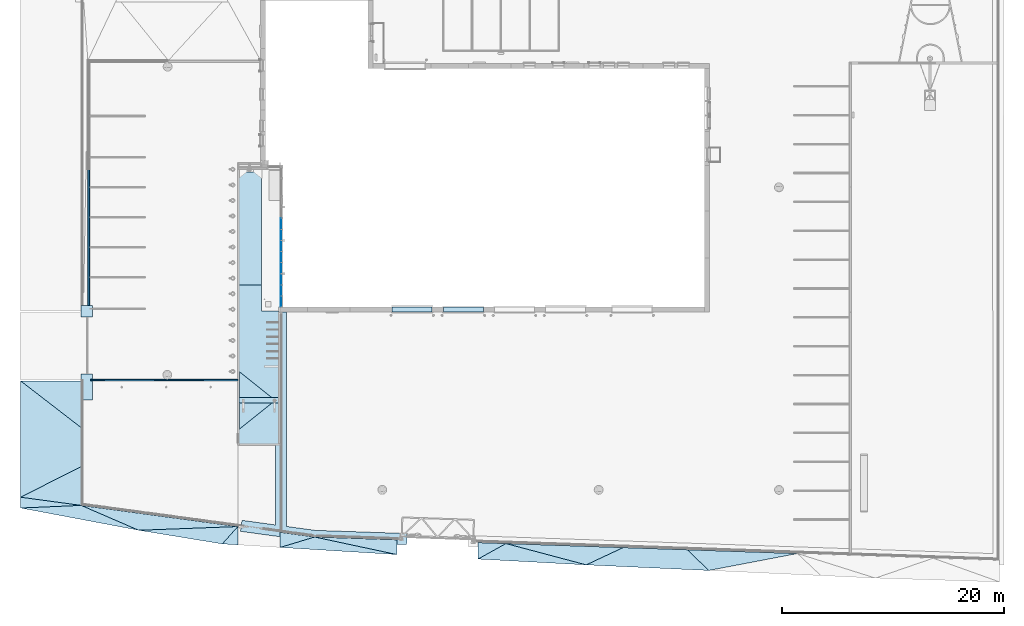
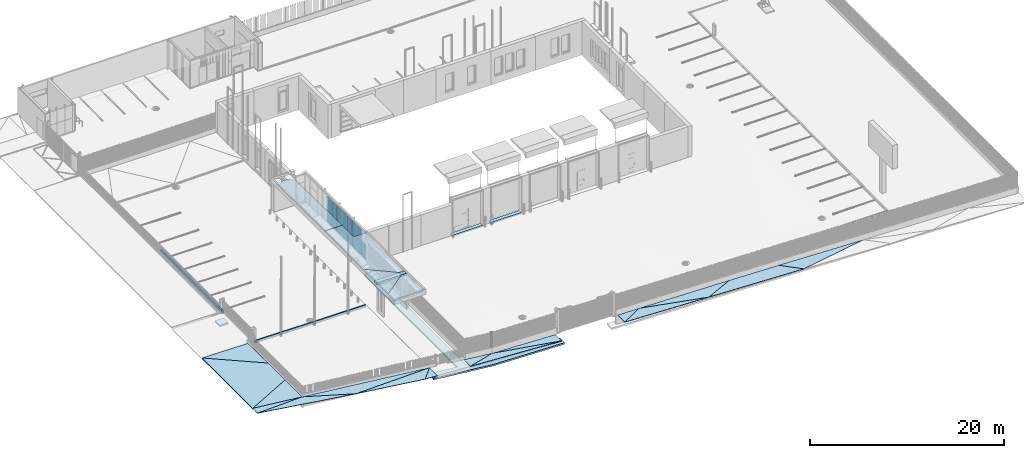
# One storey, part 8 of 77: 29 slabs, 8 plates, 9 elements without a shape of their own.
"""IFC2X3 building model written with IfcOpenShell, lengths in millimetres."""

import ifcopenshell
import ifcopenshell.guid

model = None  # the IFC model being written
_history = None  # IfcOwnerHistory: only IFC2X3 demands one
_inside = {}  # id of a spatial element -> (the spatial element, [elements in it])
_under = {}  # id of a project, library or spatial element -> (it, [spatial elements below it])
_declared = {}  # id of a project -> (the project, [libraries it declares])
_typed = {}  # id of a type object -> (the type object, [elements of that type])
_made_of = {}  # id of a material, layer set ... -> (it, [elements and type objects made of it])


def new_model(schema):
    """Start an empty IFC model of exactly this schema.

    Asked for "IFC4X3", IfcOpenShell would pick the latest addendum, in which some entities
    have other attributes; the version numbers below select the first issue.
    IFC2X3 requires an IfcOwnerHistory on every rooted entity: one is made here for all.
    """
    global model, _history
    if schema == "IFC4X3":
        model = ifcopenshell.file(schema_version=(4, 3, 0, 0))
    else:
        model = ifcopenshell.file(schema=schema)
    _inside.clear()
    _under.clear()
    _declared.clear()
    _typed.clear()
    _made_of.clear()
    _history = None
    if model.schema == "IFC2X3":
        org = make("IfcOrganization", Name="unknown")
        user = make(
            "IfcPersonAndOrganization",
            ThePerson=make("IfcPerson", FamilyName="unknown"),
            TheOrganization=org,
        )
        app = make(
            "IfcApplication",
            ApplicationDeveloper=org,
            Version="unknown",
            ApplicationFullName="unknown",
            ApplicationIdentifier="unknown",
        )
        _history = make(
            "IfcOwnerHistory",
            OwningUser=user,
            OwningApplication=app,
            ChangeAction="ADDED",
            CreationDate=0,
        )
    return model


def make(cls, **values):
    """One entity of the class cls with the attributes given. An attribute that is None is left unset."""
    return model.create_entity(
        cls, **{name: value for name, value in values.items() if value is not None}
    )


def entity(cls, *values):
    """Any entity or typed value of the class cls, its attributes in the order of the schema. None: left unset."""
    e = model.create_entity(cls)
    for i, value in enumerate(values):
        if value is not None:
            e[i] = value
    return e


def rooted(cls, **values):
    """An entity with a GlobalId (a new one), such as an element, a storey or a relation."""
    return make(cls, GlobalId=ifcopenshell.guid.new(), OwnerHistory=_history, **values)


def si_unit(unit_type, name, prefix=None):
    """IfcSIUnit, for example si_unit("LENGTHUNIT", "METRE", prefix="MILLI")."""
    return make("IfcSIUnit", UnitType=unit_type, Prefix=prefix, Name=name)


def converted_unit(unit_type, name, factor, base, dimensions=None, offset=None):
    """IfcConversionBasedUnit, such as the inch: factor (a typed value) times the base unit."""
    return make(
        "IfcConversionBasedUnit"
        if offset is None
        else "IfcConversionBasedUnitWithOffset",
        ConversionOffset=offset,
        Dimensions=None
        if dimensions is None
        else entity("IfcDimensionalExponents", *dimensions),
        UnitType=unit_type,
        Name=name,
        ConversionFactor=make(
            "IfcMeasureWithUnit", ValueComponent=factor, UnitComponent=base
        ),
    )


def derived_unit(unit_type, elements):
    """IfcDerivedUnit: a product of units, each with its exponent."""
    return make(
        "IfcDerivedUnit",
        Elements=[
            make("IfcDerivedUnitElement", Unit=unit, Exponent=power)
            for unit, power in elements
        ],
        UnitType=unit_type,
    )


def assignment(units):
    """IfcUnitAssignment: the units of a project."""
    return None if units is None else make("IfcUnitAssignment", Units=units)


def point(xyz):
    """IfcCartesianPoint."""
    return None if xyz is None else make("IfcCartesianPoint", Coordinates=xyz)


def direction(xyz):
    """IfcDirection."""
    return None if xyz is None else make("IfcDirection", DirectionRatios=xyz)


def frame(location, z_axis=None, x_axis=None):
    """IfcAxis2Placement3D, a coordinate frame: its origin and axes. An axis left out is left unset."""
    return make(
        "IfcAxis2Placement3D",
        Location=point(location),
        Axis=direction(z_axis),
        RefDirection=direction(x_axis),
    )


def frame_2d(location, x_axis=None):
    """IfcAxis2Placement2D, a coordinate frame in the plane: its origin and x axis."""
    return make(
        "IfcAxis2Placement2D", Location=point(location), RefDirection=direction(x_axis)
    )


def origin():
    """The frame at (0, 0, 0) with its axes left unset."""
    return frame((0.0, 0.0, 0.0))


def place(relative_to, where):
    """IfcLocalPlacement: puts the frame where relative to a parent placement (None: the world)."""
    return make(
        "IfcLocalPlacement", PlacementRelTo=relative_to, RelativePlacement=where
    )


def context(
    kind, dimensions, precision=None, world=None, true_north=None, identifier=None
):
    """IfcGeometricRepresentationContext, for example the 3D "Model" context."""
    return make(
        "IfcGeometricRepresentationContext",
        ContextIdentifier=identifier,
        ContextType=kind,
        CoordinateSpaceDimension=dimensions,
        Precision=precision,
        WorldCoordinateSystem=world,
        TrueNorth=true_north,
    )


def subcontext(parent, identifier, kind, view, scale=None):
    """IfcGeometricRepresentationSubContext, for example "Body" below "Model"."""
    return make(
        "IfcGeometricRepresentationSubContext",
        ContextIdentifier=identifier,
        ContextType=kind,
        ParentContext=parent,
        TargetScale=scale,
        TargetView=view,
    )


def project(units=None, contexts=None):
    """IfcProject with its units and contexts."""
    return rooted(
        "IfcProject",
        Name="project",
        RepresentationContexts=contexts,
        UnitsInContext=assignment(units),
    )


def spatial(cls, under=None, at=None, **own):
    """A site, building, storey or space (cls), placed at a placement, below another one or the project."""
    s = rooted(cls, ObjectPlacement=at, **own)
    if under is not None:
        _under.setdefault(under.id(), (under, []))[1].append(s)
    return s


def polyline(points):
    """IfcPolyline through the points."""
    return make("IfcPolyline", Points=[point(p) for p in points])


def profile(cls, at=None, kind="AREA", **sizes):
    """A parametric profile (cls). Its sizes go by their IFC names, for example OverallWidth=200.0."""
    return make(cls, ProfileType=kind, Position=at, **sizes)


def rectangle(**sizes):
    """IfcRectangleProfileDef."""
    return profile("IfcRectangleProfileDef", **sizes)


def outline(outer, holes=None, kind="AREA"):
    """IfcArbitraryClosedProfileDef: a profile drawn as a closed curve; with holes, ...WithVoids."""
    if holes is None:
        return make("IfcArbitraryClosedProfileDef", ProfileType=kind, OuterCurve=outer)
    return make(
        "IfcArbitraryProfileDefWithVoids",
        ProfileType=kind,
        OuterCurve=outer,
        InnerCurves=holes,
    )


def extrude(swept, where, along, depth):
    """IfcExtrudedAreaSolid: the profile swept, set in the frame where, extruded along a direction by depth."""
    return make(
        "IfcExtrudedAreaSolid",
        SweptArea=swept,
        Position=where,
        ExtrudedDirection=direction(along),
        Depth=depth,
    )


def clip(a, b, op="DIFFERENCE"):
    """IfcBooleanClippingResult: the solid a cut by the half space b."""
    return make(
        "IfcBooleanClippingResult", Operator=op, FirstOperand=a, SecondOperand=b
    )


def halfspace(plane, agree):
    """IfcHalfSpaceSolid: all space on one side of the plane z = 0 of the frame plane."""
    return make(
        "IfcHalfSpaceSolid",
        BaseSurface=make("IfcPlane", Position=plane),
        AgreementFlag=agree,
    )


def shape(context_of_items, identifier, shape_type, items):
    """IfcShapeRepresentation: the items that make up one representation, for example the "Body"."""
    return make(
        "IfcShapeRepresentation",
        ContextOfItems=context_of_items,
        RepresentationIdentifier=identifier,
        RepresentationType=shape_type,
        Items=items,
    )


def source(mapping_origin, context_of_items, identifier, shape_type, items):
    """IfcRepresentationMap: a shape defined once, which mapped items show again and again."""
    return make(
        "IfcRepresentationMap",
        MappingOrigin=mapping_origin,
        MappedRepresentation=shape(context_of_items, identifier, shape_type, items),
    )


def transform(
    local_origin,
    x_axis=None,
    y_axis=None,
    z_axis=None,
    scale=None,
    scale2=None,
    scale3=None,
    uniform=True,
):
    """IfcCartesianTransformationOperator3D, or its non-uniform kind. x_axis, y_axis, z_axis: its Axis1, 2, 3."""
    if uniform:
        return make(
            "IfcCartesianTransformationOperator3D",
            Axis1=direction(x_axis),
            Axis2=direction(y_axis),
            LocalOrigin=point(local_origin),
            Scale=scale,
            Axis3=direction(z_axis),
        )
    return make(
        "IfcCartesianTransformationOperator3DnonUniform",
        Axis1=direction(x_axis),
        Axis2=direction(y_axis),
        LocalOrigin=point(local_origin),
        Scale=scale,
        Axis3=direction(z_axis),
        Scale2=scale2,
        Scale3=scale3,
    )


def mapped(mapping_source, mapping_target):
    """IfcMappedItem: shows the shape of a source again, moved by a transform."""
    return make(
        "IfcMappedItem", MappingSource=mapping_source, MappingTarget=mapping_target
    )


def material(Name=None, Category=None):
    """IfcMaterial."""
    return make("IfcMaterial", Name=Name, Category=Category)


def layer(
    of_material, thickness, ventilated=None, Name=None, Category=None, Priority=None
):
    """IfcMaterialLayer: one layer of a wall or slab, of a material (None: an air gap)."""
    return make(
        "IfcMaterialLayer",
        Material=of_material,
        LayerThickness=thickness,
        IsVentilated=ventilated,
        Name=Name,
        Category=Category,
        Priority=Priority,
    )


def layer_set(layers, Name=None):
    """IfcMaterialLayerSet."""
    return make("IfcMaterialLayerSet", MaterialLayers=layers, LayerSetName=Name)


def layer_usage(for_layer_set, set_direction, sense, offset, extent=None):
    """IfcMaterialLayerSetUsage: how a layer set lies in its element."""
    return make(
        "IfcMaterialLayerSetUsage",
        ForLayerSet=for_layer_set,
        LayerSetDirection=set_direction,
        DirectionSense=sense,
        OffsetFromReferenceLine=offset,
        ReferenceExtent=extent,
    )


def made_of(thing, what):
    """Note that an element or type object is made of a material, layer set ...; save() writes the relation."""
    if what is not None:
        _made_of.setdefault(what.id(), (what, []))[1].append(thing)
    return thing


def type_object(cls, material=None, **own):
    """A type object (cls), such as IfcWallType, which elements share."""
    return made_of(rooted(cls, **own), material)


def type_shapes(of_type, sources):
    """Give a type object the sources (RepresentationMaps) that its elements show as mapped items."""
    of_type.RepresentationMaps = sources


def element(
    cls,
    number,
    at=None,
    inside=None,
    cuts=None,
    type_object=None,
    material=None,
    context=None,
    identifier="Body",
    shape_type=None,
    held_by="IfcProductDefinitionShape",
    body=None,
    shapes=None,
    **own,
):
    """One element of the class cls, such as IfcWall. Its Tag is "e" and its number.

    at: its placement. inside: the storey or other place that contains it. cuts: it is an
    opening in that element (IfcRelVoidsElement). A single representation is given by context,
    identifier, shape_type and body (its items); several are given by shapes. held_by: the class
    of the entity that holds the representations. save() writes the other relations.
    """
    e = rooted(cls, Tag="e%d" % number, ObjectPlacement=at, **own)
    if body is not None:
        shapes = [shape(context, identifier, shape_type, body)]
    if shapes is not None:
        e.Representation = make(held_by, Representations=shapes)
    if inside is not None:
        _inside.setdefault(inside.id(), (inside, []))[1].append(e)
    if cuts is not None:
        rooted(
            "IfcRelVoidsElement", RelatingBuildingElement=cuts, RelatedOpeningElement=e
        )
    if type_object is not None:
        _typed.setdefault(type_object.id(), (type_object, []))[1].append(e)
    return made_of(e, material)


def aggregate(whole, parts):
    """IfcRelAggregates: a whole, such as a stair, and the parts it consists of."""
    return rooted("IfcRelAggregates", RelatingObject=whole, RelatedObjects=parts)


def save(model, path):
    """Write the relations noted so far, then the file.

    IfcRelAggregates (storeys below a building ...), IfcRelContainedInSpatialStructure (elements
    in a storey), IfcRelDefinesByType, IfcRelAssociatesMaterial and IfcRelDeclares: one each for
    every whole, place, type object, material and project.
    """
    for whole, parts in _under.values():
        aggregate(whole, parts)
    for where, things in _inside.values():
        rooted(
            "IfcRelContainedInSpatialStructure",
            RelatedElements=things,
            RelatingStructure=where,
        )
    for kind, things in _typed.values():
        rooted("IfcRelDefinesByType", RelatedObjects=things, RelatingType=kind)
    for what, things in _made_of.values():
        rooted("IfcRelAssociatesMaterial", RelatedObjects=things, RelatingMaterial=what)
    for by, libraries in _declared.values():
        rooted("IfcRelDeclares", RelatingContext=by, RelatedDefinitions=libraries)
    model.write(path)


model = new_model("IFC2X3")

# Units and contexts
model_context = context("Model", 3, precision=0.01, world=origin(), true_north=direction((6.12303176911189e-17, 1.0)))
body_context = subcontext(model_context, "Body", "Model", "MODEL_VIEW")
ifc_project = project(units=[si_unit("LENGTHUNIT", "METRE", prefix="MILLI"), si_unit("AREAUNIT", "SQUARE_METRE"), si_unit("VOLUMEUNIT", "CUBIC_METRE"), converted_unit("PLANEANGLEUNIT", "DEGREE", entity("IfcRatioMeasure", 0.0174532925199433), si_unit("PLANEANGLEUNIT", "RADIAN"), dimensions=[0, 0, 0, 0, 0, 0, 0]), si_unit("MASSUNIT", "GRAM", prefix="KILO"), derived_unit("MASSDENSITYUNIT", [(si_unit("MASSUNIT", "GRAM", prefix="KILO"), 1), (si_unit("LENGTHUNIT", "METRE"), -3)]), si_unit("TIMEUNIT", "SECOND"), si_unit("FREQUENCYUNIT", "HERTZ"), si_unit("THERMODYNAMICTEMPERATUREUNIT", "DEGREE_CELSIUS"), derived_unit("THERMALTRANSMITTANCEUNIT", [(si_unit("MASSUNIT", "GRAM", prefix="KILO"), 1), (si_unit("THERMODYNAMICTEMPERATUREUNIT", "KELVIN"), -1), (si_unit("TIMEUNIT", "SECOND"), -3)]), derived_unit("VOLUMETRICFLOWRATEUNIT", [(si_unit("LENGTHUNIT", "METRE"), 3), (si_unit("TIMEUNIT", "SECOND"), -1)]), si_unit("ELECTRICCURRENTUNIT", "AMPERE"), si_unit("ELECTRICVOLTAGEUNIT", "VOLT"), si_unit("POWERUNIT", "WATT"), si_unit("FORCEUNIT", "NEWTON", prefix="KILO"), si_unit("ILLUMINANCEUNIT", "LUX"), si_unit("LUMINOUSFLUXUNIT", "LUMEN"), si_unit("LUMINOUSINTENSITYUNIT", "CANDELA"), derived_unit("USERDEFINED", [(si_unit("MASSUNIT", "GRAM", prefix="KILO"), -1), (si_unit("LENGTHUNIT", "METRE"), -2), (si_unit("TIMEUNIT", "SECOND"), 3), (si_unit("LUMINOUSFLUXUNIT", "LUMEN"), 1)]), derived_unit("LINEARVELOCITYUNIT", [(si_unit("LENGTHUNIT", "METRE"), 1), (si_unit("TIMEUNIT", "SECOND"), -1)]), si_unit("PRESSUREUNIT", "PASCAL"), derived_unit("USERDEFINED", [(si_unit("LENGTHUNIT", "METRE"), -2), (si_unit("MASSUNIT", "GRAM", prefix="KILO"), 1), (si_unit("TIMEUNIT", "SECOND"), -2)])], contexts=[model_context])

# Site, building, storey
site_placement = place(None, origin())
site = spatial("IfcSite", under=ifc_project, at=site_placement, Name="Default", CompositionType="ELEMENT")
building_placement = place(site_placement, origin())
building = spatial("IfcBuilding", under=site, at=building_placement, CompositionType="ELEMENT")
storey_placement = place(building_placement, origin())
storey = spatial("IfcBuildingStorey", under=building, at=storey_placement, Name="1. KORRUS", CompositionType="ELEMENT", Elevation=0.0)

# Curtain wall, plates
curtain_wall_type = type_object("IfcCurtainWallType", Name="Curtain Wall:KF01", PredefinedType="NOTDEFINED")
curtain_wall_placement = place(storey_placement, origin())
curtain_wall = element("IfcCurtainWall", 1, at=curtain_wall_placement, inside=storey, type_object=curtain_wall_type, Name="Curtain Wall:KF01", ObjectType="Curtain Wall:KF01")
ifc_material_1 = material(Name="<Unnamed>")
ifc_layer_1 = layer(ifc_material_1, 52.8)
ifc_layer_set_1 = layer_set([ifc_layer_1], Name="Curtain Wall:KF01")
ifc_layer_usage_1 = layer_usage(ifc_layer_set_1, "AXIS3", "POSITIVE", 0.190288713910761)
plate_type_1 = type_object("IfcPlateType", Name="kf-klaaspakett", PredefinedType="CURTAIN_PANEL", material=ifc_layer_set_1)
shared_shape_1 = source(origin(), body_context, "Body", "SweptSolid", [
    extrude(rectangle(XDim=52.8, YDim=925.000000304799, at=frame_2d((5.32907051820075e-15, 0.0), x_axis=(1.0, 0.0))), frame((0.0, 58.0, 0.0), z_axis=(0.0, 0.0, 1.0), x_axis=(0.0, 1.0, 0.0)), (0.0, 0.0, 1.0), 1950.0),
])
type_shapes(plate_type_1, [shared_shape_1])
plate_1_placement = place(curtain_wall_placement, frame((1460.004537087, 512.500000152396, 50.0), z_axis=(0.0, 0.0, 1.0), x_axis=(0.0, 1.0, 0.0)))
plate_1 = element("IfcPlate", 2, at=plate_1_placement, type_object=plate_type_1, material=ifc_layer_usage_1, Name="System Panel:kf-klaaspakett", ObjectType="kf-klaaspakett", context=body_context, shape_type="MappedRepresentation", body=[
    mapped(shared_shape_1, transform((0.0, 0.0, 0.0), scale=1.0)),
])
ifc_layer_usage_2 = layer_usage(ifc_layer_set_1, "AXIS3", "POSITIVE", 0.190288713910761)
plate_type_2 = type_object("IfcPlateType", Name="kf-klaaspakett", PredefinedType="CURTAIN_PANEL", material=ifc_layer_set_1)
shared_shape_2 = source(origin(), body_context, "Body", "SweptSolid", [
    extrude(rectangle(XDim=3300.0, YDim=950.0, at=frame_2d((-256.25, 0.0), x_axis=(1.0, 0.0))), frame((0.0, 31.6000000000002, 1906.25), z_axis=(0.0, 1.0, 0.0), x_axis=(0.0, 0.0, 1.0)), (0.0, 0.0, 1.0), 52.8),
])
type_shapes(plate_type_2, [shared_shape_2])
plate_2_placement = place(curtain_wall_placement, frame((1460.004537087, 1500.0, 50.0), z_axis=(0.0, 0.0, 1.0), x_axis=(0.0, 1.0, 0.0)))
plate_2 = element("IfcPlate", 3, at=plate_2_placement, type_object=plate_type_2, material=ifc_layer_usage_2, Name="System Panel:kf-klaaspakett", ObjectType="kf-klaaspakett", context=body_context, shape_type="MappedRepresentation", body=[
    mapped(shared_shape_2, transform((0.0, 0.0, 0.0), scale=1.0)),
])
ifc_layer_usage_3 = layer_usage(ifc_layer_set_1, "AXIS3", "POSITIVE", 0.190288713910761)
plate_3_placement = place(curtain_wall_placement, frame((1460.004537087, 2500.0, 50.0), z_axis=(0.0, 0.0, 1.0), x_axis=(0.0, 1.0, 0.0)))
plate_3 = element("IfcPlate", 4, at=plate_3_placement, type_object=plate_type_2, material=ifc_layer_usage_3, Name="System Panel:kf-klaaspakett", ObjectType="kf-klaaspakett", context=body_context, shape_type="MappedRepresentation", body=[
    mapped(shared_shape_2, transform((0.0, 0.0, 0.0), scale=1.0)),
])
ifc_layer_usage_4 = layer_usage(ifc_layer_set_1, "AXIS3", "POSITIVE", 0.190288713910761)
plate_4_placement = place(curtain_wall_placement, frame((1460.004537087, 3500.0, 50.0), z_axis=(0.0, 0.0, 1.0), x_axis=(0.0, 1.0, 0.0)))
plate_4 = element("IfcPlate", 5, at=plate_4_placement, type_object=plate_type_2, material=ifc_layer_usage_4, Name="System Panel:kf-klaaspakett", ObjectType="kf-klaaspakett", context=body_context, shape_type="MappedRepresentation", body=[
    mapped(shared_shape_2, transform((0.0, 0.0, 0.0), scale=1.0)),
])
ifc_layer_usage_5 = layer_usage(ifc_layer_set_1, "AXIS3", "POSITIVE", 0.190288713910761)
plate_5_placement = place(curtain_wall_placement, frame((1460.004537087, 4500.0, 50.0), z_axis=(0.0, 0.0, 1.0), x_axis=(0.0, 1.0, 0.0)))
plate_5 = element("IfcPlate", 6, at=plate_5_placement, type_object=plate_type_2, material=ifc_layer_usage_5, Name="System Panel:kf-klaaspakett", ObjectType="kf-klaaspakett", context=body_context, shape_type="MappedRepresentation", body=[
    mapped(shared_shape_2, transform((0.0, 0.0, 0.0), scale=1.0)),
])
ifc_layer_usage_6 = layer_usage(ifc_layer_set_1, "AXIS3", "POSITIVE", 0.190288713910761)
plate_6_placement = place(curtain_wall_placement, frame((1460.004537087, 5500.0, 50.0), z_axis=(0.0, 0.0, 1.0), x_axis=(0.0, 1.0, 0.0)))
plate_6 = element("IfcPlate", 7, at=plate_6_placement, type_object=plate_type_2, material=ifc_layer_usage_6, Name="System Panel:kf-klaaspakett", ObjectType="kf-klaaspakett", context=body_context, shape_type="MappedRepresentation", body=[
    mapped(shared_shape_2, transform((0.0, 0.0, 0.0), scale=1.0)),
])
ifc_layer_usage_7 = layer_usage(ifc_layer_set_1, "AXIS3", "POSITIVE", 0.190288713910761)
plate_7_placement = place(curtain_wall_placement, frame((1460.004537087, 6500.0, 50.0), z_axis=(0.0, 0.0, 1.0), x_axis=(0.0, 1.0, 0.0)))
plate_7 = element("IfcPlate", 8, at=plate_7_placement, type_object=plate_type_2, material=ifc_layer_usage_7, Name="System Panel:kf-klaaspakett", ObjectType="kf-klaaspakett", context=body_context, shape_type="MappedRepresentation", body=[
    mapped(shared_shape_2, transform((0.0, 0.0, 0.0), scale=1.0)),
])
ifc_layer_usage_8 = layer_usage(ifc_layer_set_1, "AXIS3", "POSITIVE", 0.190288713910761)
plate_8_placement = place(curtain_wall_placement, frame((1460.00453708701, 7500.0, 50.0), z_axis=(0.0, 0.0, 1.0), x_axis=(0.0, 1.0, 0.0)))
plate_8 = element("IfcPlate", 9, at=plate_8_placement, type_object=plate_type_2, material=ifc_layer_usage_8, Name="System Panel:kf-klaaspakett", ObjectType="kf-klaaspakett", context=body_context, shape_type="MappedRepresentation", body=[
    mapped(shared_shape_2, transform((0.0, 0.0, 0.0), scale=1.0)),
])
aggregate(curtain_wall, [plate_1, plate_2, plate_3, plate_4, plate_5, plate_6, plate_7, plate_8])

# Roof, slabs
roof_1_placement = place(storey_placement, frame((-2375.0, -12325.0, 3550.0)))
roof_1 = element("IfcRoof", 10, at=roof_1_placement, inside=storey, Name="Basic Roof:varikatus_pvc-betoon", ObjectType="Basic Roof:varikatus_pvc-betoon", ShapeType="NOTDEFINED")
ifc_material_2 = material(Name="pvc-katusekate")
ifc_layer_2 = layer(ifc_material_2, 5.0)
ifc_material_3 = material(Name="r/b")
ifc_layer_3 = layer(ifc_material_3, 220.0)
ifc_layer_set_2 = layer_set([ifc_layer_2, ifc_layer_3], Name="Basic Roof:varikatus_pvc-betoon")
slab_1_placement = place(roof_1_placement, origin())
slab_1 = element("IfcSlab", 11, at=slab_1_placement, material=ifc_layer_set_2, Name="Basic Roof:varikatus_pvc-betoon", ObjectType="Basic Roof:varikatus_pvc-betoon", PredefinedType="ROOF", context=body_context, shape_type="SweptSolid", body=[
    extrude(rectangle(XDim=3675.28787990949, YDim=3550.0, at=frame_2d((0.0, 1.02318153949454e-12), x_axis=(0.0, 1.0))), frame((1775.0, 1837.50000001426, 23.0), z_axis=(0.0, 0.0125160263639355, 0.99992167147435), x_axis=(1.0, 0.0, 0.0)), (0.0, -0.0125160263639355, 0.99992167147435), 225.0),
])
slab_2_placement = place(roof_1_placement, origin())
slab_2 = element("IfcSlab", 12, at=slab_2_placement, material=ifc_layer_set_2, Name="Basic Roof:varikatus_pvc-betoon", ObjectType="Basic Roof:varikatus_pvc-betoon", PredefinedType="ROOF", context=body_context, shape_type="SweptSolid", body=[
    extrude(outline(polyline([(1775.0, -5075.39725045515), (1775.0, 2725.21330197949), (250.0, 2725.21330197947), (250.0, 5075.39725045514), (-1775.0, 5075.39725045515), (-1775.0, -5075.39725045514), (1775.0, -5075.39725045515)])), frame((1775.0, 9250.0, 63.5000000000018), z_axis=(0.0, -0.012511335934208, 0.999921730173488), x_axis=(1.0, 0.0, 0.0)), (0.0, 0.012511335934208, 0.999921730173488), 225.0),
])
slab_3_placement = place(roof_1_placement, origin())
slab_3 = element("IfcSlab", 13, at=slab_3_placement, material=ifc_layer_set_2, Name="Basic Roof:varikatus_pvc-betoon", ObjectType="Basic Roof:varikatus_pvc-betoon", PredefinedType="ROOF", context=body_context, shape_type="SweptSolid", body=[
    extrude(rectangle(XDim=2025.0, YDim=10150.7945009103, at=frame_2d((2.8421709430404e-13, 0.0), x_axis=(1.0, 0.0))), frame((1012.5, 19400.0, 63.5000000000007), z_axis=(0.0, 0.012511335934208, 0.999921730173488), x_axis=(1.0, 0.0, 0.0)), (0.0, -0.012511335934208, 0.999921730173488), 225.0),
])
slab_4_placement = place(roof_1_placement, origin())
slab_4 = element("IfcSlab", 14, at=slab_4_placement, material=ifc_layer_set_2, Name="Basic Roof:varikatus_pvc-betoon", ObjectType="Basic Roof:varikatus_pvc-betoon", PredefinedType="ROOF", context=body_context, shape_type="SweptSolid", body=[
    extrude(rectangle(XDim=3550.0, YDim=500.000000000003, at=frame_2d((-1.13686837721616e-13, 0.0), x_axis=(1.0, 0.0))), frame((1775.0, 3925.0, 0.0)), (0.0, 0.0, 1.0), 225.0),
])
aggregate(roof_1, [slab_1, slab_2, slab_3, slab_4])

# Roof, slab
roof_2_placement = place(storey_placement, frame((-2360.00000760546, -10987.1046368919, 3734.99923838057)))
roof_2 = element("IfcRoof", 15, at=roof_2_placement, inside=storey, Name="Basic Roof:varikatus_pvc-vastukalle", ObjectType="Basic Roof:varikatus_pvc-vastukalle", ShapeType="NOTDEFINED")
ifc_layer_4 = layer(ifc_material_2, 5.0)
ifc_layer_5 = layer(ifc_material_3, 35.0)
ifc_layer_set_3 = layer_set([ifc_layer_4, ifc_layer_5], Name="Basic Roof:varikatus_pvc-vastukalle")
slab_5_placement = place(roof_2_placement, origin())
slab_5 = element("IfcSlab", 16, at=slab_5_placement, material=ifc_layer_set_3, Name="Basic Roof:varikatus_pvc-vastukalle", ObjectType="Basic Roof:varikatus_pvc-vastukalle", PredefinedType="ROOF", context=body_context, shape_type="SweptSolid", body=[
    extrude(outline(polyline([(-1460.76323739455, 2587.1046332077), (-1460.76323739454, -2587.1046332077), (1460.7632069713, -250.000177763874), (1460.76323739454, 249.999822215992), (-1460.76323739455, 2587.1046332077)])), frame((1460.69041093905, 2587.10472575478, 14.5877876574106), z_axis=(0.00998537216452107, -6.09325920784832e-06, 0.999950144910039), x_axis=(0.999950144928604, 6.08464943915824e-08, -0.00998537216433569)), (-0.00998537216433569, 6.09356300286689e-06, 0.999950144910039), 40.0000000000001),
])
aggregate(roof_2, [slab_5])

# Slabs
ifc_layer_6 = layer(ifc_material_3, 200.0)
ifc_layer_set_4 = layer_set([ifc_layer_6], Name="Floor:PP-1 serv")
ifc_layer_usage_9 = layer_usage(ifc_layer_set_4, "AXIS3", "POSITIVE", 0.0)
slab_6_placement = place(storey_placement, origin())
element("IfcSlab", 17, at=slab_6_placement, inside=storey, material=ifc_layer_usage_9, Name="Floor:PP-1 serv", ObjectType="Floor:PP-1 serv", PredefinedType="FLOOR", context=body_context, shape_type="Clipping", body=[
    clip(clip(extrude(rectangle(XDim=430.464865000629, YDim=3599.99999999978, at=frame_2d((0.0, -1.02318153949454e-12), x_axis=(1.0, 0.0))), frame((13200.0, -215.0, -10.0), z_axis=(0.0, 0.0464613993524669, -0.998920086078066), x_axis=(0.0, 0.998920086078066, 0.0464613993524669)), (-0.0464613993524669, 0.0, 0.998920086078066), 200.216216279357), halfspace(frame((15000.0, 1.0, -200.0), z_axis=(0.0, 0.0, -1.0), x_axis=(0.0, -1.0, 0.0)), False)), halfspace(frame((13200.0, -215.0, -10.0), z_axis=(0.0, -0.0464613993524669, 0.998920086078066), x_axis=(0.0, -0.998920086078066, -0.0464613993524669)), False)),
])
ifc_layer_usage_10 = layer_usage(ifc_layer_set_4, "AXIS3", "POSITIVE", 0.0)
slab_7_placement = place(storey_placement, origin())
element("IfcSlab", 18, at=slab_7_placement, inside=storey, material=ifc_layer_usage_10, Name="Floor:PP-1 serv", ObjectType="Floor:PP-1 serv", PredefinedType="FLOOR", context=body_context, shape_type="Clipping", body=[
    clip(clip(extrude(rectangle(XDim=430.464865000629, YDim=3599.99999999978, at=frame_2d((2.8421709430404e-14, 0.0), x_axis=(1.0, 0.0))), frame((17800.0, -215.0, -10.0), z_axis=(0.0, 0.0464613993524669, -0.998920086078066), x_axis=(0.0, 0.998920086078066, 0.0464613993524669)), (-0.0464613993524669, 0.0, 0.998920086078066), 200.216216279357), halfspace(frame((19600.0, 1.0, -200.0), z_axis=(0.0, 0.0, -1.0), x_axis=(0.0, -1.0, 0.0)), False)), halfspace(frame((17800.0, -215.0, -10.0), z_axis=(0.0, -0.0464613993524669, 0.998920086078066), x_axis=(0.0, -0.998920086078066, -0.0464613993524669)), False)),
])

slab_8_placement = place(storey_placement, frame((-22050.0, -17852.2872803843, -210.0)))
slab_8 = element("IfcSlab", 19, at=slab_8_placement, inside=storey, Name="Floor:Muru", ObjectType="Floor:Muru", PredefinedType="NOTDEFINED")
slab_9_placement = place(slab_8_placement, origin())
slab_9 = element("IfcSlab", 20, at=slab_9_placement, Name="Floor:Muru", ObjectType="Floor:Muru", PredefinedType="NOTDEFINED", context=body_context, shape_type="SweptSolid", body=[
    extrude(outline(polyline([(-2725.0, 5233.86710917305), (-2725.0, -5233.86710917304), (2725.0, -2471.1012863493), (2725.0, 1028.23075356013), (-2725.0, 5233.86710917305)])), frame((2725.0, 5970.43332625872, 210.0)), (0.0, 0.0, -1.0), 150.0),
])
slab_10_placement = place(slab_8_placement, origin())
slab_10 = element("IfcSlab", 21, at=slab_10_placement, Name="Floor:Muru", ObjectType="Floor:Muru", PredefinedType="NOTDEFINED", context=body_context, shape_type="SweptSolid", body=[
    extrude(outline(polyline([(-3742.28153421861, 784.329381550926), (1708.04866379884, -3420.87904232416), (1708.04866379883, 785.185288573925), (-3742.28153421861, 784.329381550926)])), frame((3742.05481512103, 10419.4632416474, 180.0), z_axis=(0.0110073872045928, 0.0142642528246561, 0.999837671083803), x_axis=(0.999939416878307, -0.00015702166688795, -0.0110062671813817)), (0.0110062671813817, 0.0142651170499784, -0.999837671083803), 150.0),
])
slab_11_placement = place(slab_8_placement, origin())
slab_11 = element("IfcSlab", 22, at=slab_11_placement, Name="Floor:Muru", ObjectType="Floor:Muru", PredefinedType="NOTDEFINED", context=body_context, shape_type="SweptSolid", body=[
    extrude(outline(polyline([(-2957.27062890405, -1349.96634816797), (2492.7522447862, -2086.63484104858), (2492.7522447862, 1412.75435215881), (-2957.27062890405, -1349.96634816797)])), frame((2957.25821726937, 2086.5594851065, 209.147676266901), z_axis=(0.00289723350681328, -0.00571525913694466, 0.999979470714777), x_axis=(0.999995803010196, 1.65585097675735e-05, -0.00289718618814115)), (0.00289718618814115, -0.00571528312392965, -0.999979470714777), 150.0),
])
aggregate(slab_8, [slab_9, slab_10, slab_11])

slab_12_placement = place(storey_placement, frame((19120.3892851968, -24741.7968645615, -270.0)))
slab_12 = element("IfcSlab", 23, at=slab_12_placement, inside=storey, Name="Floor:Muru-ymbrus", ObjectType="Floor:Muru-ymbrus", PredefinedType="NOTDEFINED")
slab_13_placement = place(slab_12_placement, origin())
slab_13 = element("IfcSlab", 24, at=slab_13_placement, Name="Floor:Muru-ymbrus", ObjectType="Floor:Muru-ymbrus", PredefinedType="NOTDEFINED", context=body_context, shape_type="SweptSolid", body=[
    extrude(outline(polyline([(-1257.33214865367, 741.740593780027), (-1257.33214865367, -741.740593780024), (1257.33214865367, 655.171543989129), (-1257.33214865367, 741.740593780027)])), frame((1257.24948213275, 2798.87734065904, 114.416446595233), z_axis=(-0.0114669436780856, 0.0134809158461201, 0.999843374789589), x_axis=(0.999934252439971, 0.000154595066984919, 0.0114659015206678)), (-0.0114659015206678, 0.0134818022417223, -0.999843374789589), 50.0),
])
slab_14_placement = place(slab_12_placement, origin())
slab_14 = element("IfcSlab", 25, at=slab_14_placement, Name="Floor:Muru-ymbrus", ObjectType="Floor:Muru-ymbrus", PredefinedType="NOTDEFINED", context=body_context, shape_type="SweptSolid", body=[
    extrude(outline(polyline([(-4911.47215667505, -502.544500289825), (4829.52697716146, -1025.07506917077), (-2396.92842076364, 894.584645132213), (-4911.47215667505, -502.544500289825)])), frame((4911.38470753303, 2559.65605486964, 137.508165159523), z_axis=(-0.00596739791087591, 0.00358241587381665, 0.999975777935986), x_axis=(0.999982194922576, 2.13780816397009e-05, 0.00596735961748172)), (-0.00596735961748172, 0.00358247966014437, -0.999975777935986), 50.0),
])
slab_15_placement = place(slab_12_placement, origin())
slab_15 = element("IfcSlab", 26, at=slab_15_placement, Name="Floor:Muru-ymbrus", ObjectType="Floor:Muru-ymbrus", PredefinedType="NOTDEFINED", context=body_context, shape_type="SweptSolid", body=[
    extrude(outline(polyline([(1949.030814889, -1738.79662481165), (5277.36630737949, -181.082451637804), (-5277.36630737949, 181.082451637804), (1949.030814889, -1738.79662481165)])), frame((7791.81386510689, 3273.32898611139, 145.0), z_axis=(-0.00441381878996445, 0.00943040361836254, 0.999945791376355), x_axis=(0.999990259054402, 4.16244981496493e-05, 0.00441362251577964)), (-0.00441362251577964, 0.00943049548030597, -0.999945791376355), 50.0),
])
slab_16_placement = place(slab_12_placement, origin())
slab_16 = element("IfcSlab", 27, at=slab_16_placement, Name="Floor:Muru-ymbrus", ObjectType="Floor:Muru-ymbrus", PredefinedType="NOTDEFINED", context=body_context, shape_type="SweptSolid", body=[
    extrude(outline(polyline([(-5555.24386417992, -634.101061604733), (-4224.63997761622, -694.935820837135), (5474.20736901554, -1138.36383808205), (3556.53033177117, 725.481567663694), (-2226.94079282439, 923.682383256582), (-5555.24386417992, -634.101061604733)])), frame((15296.0695587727, 2168.7918713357, 170.0)), (0.0, 0.0, -1.0), 50.0),
])
slab_17_placement = place(slab_12_placement, origin())
slab_17 = element("IfcSlab", 28, at=slab_17_placement, Name="Floor:Muru-ymbrus", ObjectType="Floor:Muru-ymbrus", PredefinedType="NOTDEFINED", context=body_context, shape_type="SweptSolid", body=[
    extrude(outline(polyline([(4984.2437494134, 728.405211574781), (-4922.74337358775, 1067.64113053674), (-3005.04009548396, -796.177276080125), (4984.2437494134, 728.405211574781)])), frame((23775.2759038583, 1826.50916150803, 149.994464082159), z_axis=(0.00523132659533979, 0.00538241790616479, 0.999971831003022), x_axis=(0.999986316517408, -2.81575712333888e-05, -0.00523125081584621)), (0.00523125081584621, 0.00538249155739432, -0.999971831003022), 50.0),
])
aggregate(slab_12, [slab_13, slab_14, slab_15, slab_16, slab_17])

slab_18_placement = place(storey_placement, frame((1300.64795164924, -22279.6434852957, -290.0)))
slab_18 = element("IfcSlab", 29, at=slab_18_placement, inside=storey, Name="Floor:Muru-ymbrus", ObjectType="Floor:Muru-ymbrus", PredefinedType="NOTDEFINED")
slab_19_placement = place(slab_18_placement, origin())
slab_19 = element("IfcSlab", 30, at=slab_19_placement, Name="Floor:Muru-ymbrus", ObjectType="Floor:Muru-ymbrus", PredefinedType="NOTDEFINED", context=body_context, shape_type="SweptSolid", body=[
    extrude(outline(polyline([(-5294.3696551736, -242.809415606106), (5225.71748938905, -883.845676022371), (-2183.37445236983, 698.462021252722), (-5294.3696551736, -242.809415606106)])), frame((5294.25377577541, 883.824093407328, 115.121779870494), z_axis=(0.00661619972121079, -0.00061932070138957, 0.999977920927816), x_axis=(0.999978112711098, 4.09763913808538e-06, -0.00661619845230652)), (0.00661619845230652, -0.000619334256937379, -0.999977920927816), 50.0),
])
slab_20_placement = place(slab_18_placement, origin())
slab_20 = element("IfcSlab", 31, at=slab_20_placement, Name="Floor:Muru-ymbrus", ObjectType="Floor:Muru-ymbrus", PredefinedType="NOTDEFINED", context=body_context, shape_type="SweptSolid", body=[
    extrude(outline(polyline([(-1366.00109831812, -1096.9312774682), (1744.99030208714, -155.647273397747), (-1366.00109831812, 270.31698131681), (-1366.00109831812, -1096.9312774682)])), frame((1365.97286981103, 1737.92430742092, 141.218226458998), z_axis=(0.00642881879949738, 0.0, 0.999979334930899), x_axis=(0.999979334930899, 0.0, -0.00642881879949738)), (0.00642881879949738, 0.0, -0.999979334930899), 50.0),
])
slab_21_placement = place(slab_18_placement, origin())
slab_21 = element("IfcSlab", 32, at=slab_21_placement, Name="Floor:Muru-ymbrus", ObjectType="Floor:Muru-ymbrus", PredefinedType="NOTDEFINED", context=body_context, shape_type="SweptSolid", body=[
    extrude(outline(polyline([(3704.71277721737, -790.372381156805), (3704.71277721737, 538.337732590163), (-3704.71277721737, 790.372381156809), (3704.71277721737, -790.372381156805)])), frame((6815.39199996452, 791.138517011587, 105.0), z_axis=(0.0115680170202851, 0.0225767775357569, 0.999678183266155), x_axis=(0.999933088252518, -0.000261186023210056, -0.0115650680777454)), (0.0115650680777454, 0.0225782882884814, -0.999678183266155), 50.0),
])
aggregate(slab_18, [slab_19, slab_20, slab_21])

slab_22_placement = place(storey_placement, frame((-22050.0, -21407.0704184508, -175.0)))
slab_22 = element("IfcSlab", 33, at=slab_22_placement, inside=storey, Name="Floor:Muru-ymbrus", ObjectType="Floor:Muru-ymbrus", PredefinedType="NOTDEFINED")
slab_23_placement = place(slab_22_placement, origin())
slab_23 = element("IfcSlab", 34, at=slab_23_placement, Name="Floor:Muru-ymbrus", ObjectType="Floor:Muru-ymbrus", PredefinedType="NOTDEFINED", context=body_context, shape_type="SweptSolid", body=[
    extrude(outline(polyline([(4434.26868411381, 920.917907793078), (-4490.49082272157, 588.490209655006), (3032.25026604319, -642.806468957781), (4434.26868411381, 920.917907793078)])), frame((15115.8057988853, 728.132425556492, 75.9151824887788), z_axis=(0.00579603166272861, -0.005196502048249, 0.999969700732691), x_axis=(0.999983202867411, 3.01195963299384e-05, -0.00579595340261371)), (0.00579595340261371, -0.00519658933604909, -0.999969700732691), 50.0),
])
slab_24_placement = place(slab_22_placement, origin())
slab_24 = element("IfcSlab", 35, at=slab_24_placement, Name="Floor:Muru-ymbrus", ObjectType="Floor:Muru-ymbrus", PredefinedType="NOTDEFINED", context=body_context, shape_type="SweptSolid", body=[
    extrude(outline(polyline([(291.15175637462, 1149.32861759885), (-1110.85112782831, -414.409686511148), (291.151756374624, -499.850419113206), (291.15175637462, 1149.32861759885)])), frame((19258.8499083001, 499.845136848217, 52.5), z_axis=(0.00338157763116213, -0.00303179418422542, 0.999989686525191), x_axis=(0.999994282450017, 1.02523060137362e-05, -0.00338156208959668)), (0.00338156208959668, -0.00303181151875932, -0.999989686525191), 50.0),
])
slab_25_placement = place(slab_22_placement, origin())
slab_25 = element("IfcSlab", 36, at=slab_25_placement, Name="Floor:Muru-ymbrus", ObjectType="Floor:Muru-ymbrus", PredefinedType="NOTDEFINED", context=body_context, shape_type="SweptSolid", body=[
    extrude(outline(polyline([(7153.8167647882, -197.76734282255), (-6949.48606945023, 1709.04932537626), (-1770.94942951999, -530.015452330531), (7153.8167647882, -197.76734282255)])), frame((12396.3087592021, 1846.56569146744, 99.08371180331), z_axis=(0.00592389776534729, -0.00863024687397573, 0.999945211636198), x_axis=(0.999982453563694, 5.11255972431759e-05, -0.0059236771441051)), (0.0059236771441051, -0.00863039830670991, -0.999945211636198), 50.0),
])
slab_26_placement = place(slab_22_placement, origin())
slab_26 = element("IfcSlab", 37, at=slab_26_placement, Name="Floor:Muru-ymbrus", ObjectType="Floor:Muru-ymbrus", PredefinedType="NOTDEFINED", context=body_context, shape_type="SweptSolid", body=[
    extrude(outline(polyline([(-2723.47249221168, 486.069057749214), (-2723.47249221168, -486.069057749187), (2723.47249221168, -250.353226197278), (-2723.47249221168, 486.069057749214)])), frame((2723.47231423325, 3805.46724961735, 161.484162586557), z_axis=(-0.000361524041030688, -0.029831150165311, 0.999554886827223), x_axis=(0.999999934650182, -1.07846786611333e-05, 0.000361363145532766)), (-0.000361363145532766, -0.0298311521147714, -0.999554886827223), 50.0),
])
slab_27_placement = place(slab_22_placement, origin())
slab_27 = element("IfcSlab", 38, at=slab_27_placement, Name="Floor:Muru-ymbrus", ObjectType="Floor:Muru-ymbrus", PredefinedType="NOTDEFINED", context=body_context, shape_type="SweptSolid", body=[
    extrude(outline(polyline([(5312.69623563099, -1001.78651339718), (134.249452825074, 1237.48607552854), (-5312.69623563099, 1001.78651339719), (5312.69623563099, -1001.78651339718)])), frame((5312.69520176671, 2318.06166253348, 125.5), z_axis=(-0.000623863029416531, -0.0237709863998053, 0.999717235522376), x_axis=(0.999999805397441, -1.4829842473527e-05, 0.000623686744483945)), (-0.000623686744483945, -0.023770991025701, -0.999717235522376), 50.0),
])
aggregate(slab_22, [slab_23, slab_24, slab_25, slab_26, slab_27])

slab_28_placement = place(storey_placement, frame((-15755.9995468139, -6647.98684495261, -450.0)))
slab_28 = element("IfcSlab", 39, at=slab_28_placement, inside=storey, Name="Floor:äärekivi", ObjectType="Floor:äärekivi", PredefinedType="NOTDEFINED")
slab_29_placement = place(slab_28_placement, origin())
slab_29 = element("IfcSlab", 40, at=slab_29_placement, Name="Floor:äärekivi", ObjectType="Floor:äärekivi", PredefinedType="NOTDEFINED", context=body_context, shape_type="SweptSolid", body=[
    extrude(rectangle(XDim=150.000000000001, YDim=6359.41629577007, at=frame_2d((6.82121026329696e-13, -5.40012479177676e-13), x_axis=(0.0, 1.0))), frame((10076.2325865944, 75.0, 310.0), z_axis=(0.00314494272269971, 0.0, 0.999995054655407), x_axis=(0.999995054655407, 0.0, -0.00314494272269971)), (0.00314494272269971, 0.0, -0.999995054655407), 300.0),
])
slab_30_placement = place(slab_28_placement, origin())
slab_30 = element("IfcSlab", 41, at=slab_30_placement, Name="Floor:äärekivi", ObjectType="Floor:äärekivi", PredefinedType="NOTDEFINED", context=body_context, shape_type="SweptSolid", body=[
    extrude(rectangle(XDim=150.000000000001, YDim=6896.89540490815, at=frame_2d((-7.04858393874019e-12, -5.40012479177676e-13), x_axis=(0.0, -1.0))), frame((3448.27008173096, 75.0, 355.0), z_axis=(0.0101494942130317, 0.0, 0.999948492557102), x_axis=(0.999948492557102, 0.0, -0.0101494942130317)), (0.0101494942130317, 0.0, -0.999948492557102), 300.0),
])
aggregate(slab_28, [slab_29, slab_30])

slab_31_placement = place(storey_placement, frame((-15998.8939697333, -400.0, -470.0)))
slab_31 = element("IfcSlab", 42, at=slab_31_placement, inside=storey, Name="Floor:äärekivi", ObjectType="Floor:äärekivi", PredefinedType="NOTDEFINED")
slab_32_placement = place(slab_31_placement, origin())
slab_32 = element("IfcSlab", 43, at=slab_32_placement, Name="Floor:äärekivi", ObjectType="Floor:äärekivi", PredefinedType="NOTDEFINED", context=body_context, shape_type="SweptSolid", body=[
    extrude(outline(polyline([(-75.0, -6410.56660053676), (75.0, -6410.56660053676), (74.368353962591, 6410.56660053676), (-75.0, 6410.56660053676), (-75.0, -6410.56660053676)])), frame((75.0, 6410.5178527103, 495.0), z_axis=(0.0, -0.00389981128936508, 0.999992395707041), x_axis=(1.0, 0.0, 0.0)), (0.0, -0.00389981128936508, -0.999992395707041), 300.0),
])
aggregate(slab_31, [slab_32])

ifc_layer_7 = layer(ifc_material_3, 200.0)
ifc_layer_set_5 = layer_set([ifc_layer_7], Name="Floor:taldmik")
ifc_layer_usage_11 = layer_usage(ifc_layer_set_5, "AXIS3", "POSITIVE", 0.0)
slab_33_placement = place(storey_placement, frame((-17100.0, -23224.3932619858, -1500.0)))
element("IfcSlab", 44, at=slab_33_placement, inside=storey, material=ifc_layer_usage_11, Name="Floor:taldmik:4", ObjectType="Floor:taldmik", PredefinedType="FLOOR", context=body_context, shape_type="SweptSolid", body=[
    extrude(outline(polyline([(20308.0238880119, -30139.9875978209), (26946.6072207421, -29230.9983800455), (26812.6748836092, -28240.006368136), (23784.8896755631, -28654.5864027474), (23784.8896755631, -9473.55391667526), (22784.8896755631, -9473.55391667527), (22784.8896755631, -28791.5115827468), (20222.8485638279, -29142.3195231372), (11950.0882307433, -29425.828822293), (11984.3383420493, -30425.2421151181), (20308.0238880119, -30139.9875978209)])), frame((41785.5288215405, 32267.9471786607, 200.0), z_axis=(0.0, 0.0, -1.0), x_axis=(-1.0, 0.0, 0.0)), (0.0, 0.0, 1.0), 200.0),
])
ifc_layer_usage_12 = layer_usage(ifc_layer_set_5, "AXIS3", "POSITIVE", 0.0)
slab_34_placement = place(storey_placement, frame((-16600.0, -8362.98650925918, -1500.0)))
element("IfcSlab", 45, at=slab_34_placement, inside=storey, material=ifc_layer_usage_12, Name="Floor:taldmik", ObjectType="Floor:taldmik", PredefinedType="FLOOR", context=body_context, shape_type="SweptSolid", body=[
    extrude(rectangle(XDim=2350.0, YDim=1000.0, at=frame_2d((0.0, -3069.03433917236), x_axis=(0.0, -1.0))), frame((500.0, 4244.03433917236, 200.0), z_axis=(0.0, 0.0, -1.0), x_axis=(-1.0, 0.0, 0.0)), (0.0, 0.0, 1.0), 200.0),
])
slab_35_placement = place(storey_placement, frame((-16600.0, -8362.98650925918, -1500.0)))
element("IfcSlab", 46, at=slab_35_placement, inside=storey, material=ifc_layer_usage_12, Name="Floor:taldmik:2", ObjectType="Floor:taldmik", PredefinedType="FLOOR", context=body_context, shape_type="SweptSolid", body=[
    extrude(rectangle(XDim=1000.0, YDim=1000.0, at=frame_2d((0.0, 3744.03433917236), x_axis=(1.0, 0.0))), frame((500.0, 4244.03433917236, 200.0), z_axis=(0.0, 0.0, -1.0), x_axis=(-1.0, 0.0, 0.0)), (0.0, 0.0, 1.0), 200.0),
])

save(model, "model.ifc")
